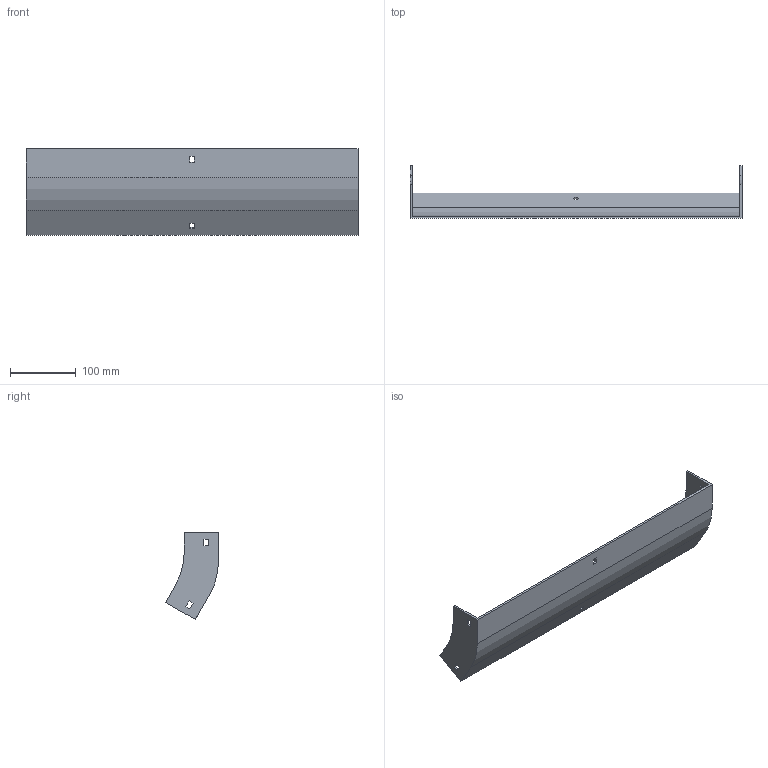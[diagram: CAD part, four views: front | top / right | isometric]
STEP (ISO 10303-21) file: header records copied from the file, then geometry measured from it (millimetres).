
FILE_DESCRIPTION (( 'STEP AP214' ), '1' );
FILE_NAME ('32F1B500.step', '2025-02-21T12:58:16', ( '' ), ( '' ), 'SwSTEP 2.0', 'SolidWorks 2023', '' );
FILE_SCHEMA (( 'AUTOMOTIVE_DESIGN' ));
Length unit declared in the file: millimetre
Products named in the file (1): 32F1B500
Bounding box: 504 x 80.4 x 131.98 mm (x, y, z)
Volume: 287359.2 mm3; surface area: 169898.2 mm2
Topology: 1 solids, 1 shells, 42 faces, 120 edges, 80 vertices
Faces by surface type: plane 38, cylinder 4
Entity records: 1399 total; most frequent: CARTESIAN_POINT 243, ORIENTED_EDGE 240, DIRECTION 214, EDGE_CURVE 120, LINE 112, VECTOR 112, VERTEX_POINT 80, EDGE_LOOP 54
